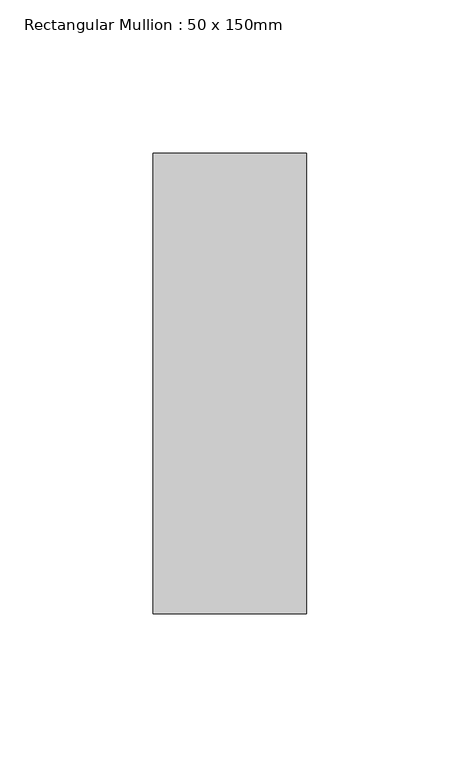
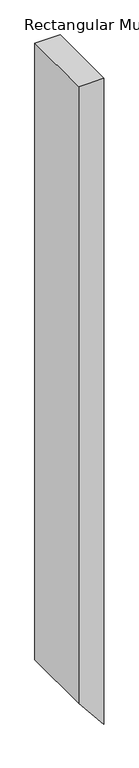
"""IFC4 building model written with IfcOpenShell, lengths in millimetres: member geometry, Rectangular Mullion : 50 x 150mm."""

from ifc_helpers import new_model, si_unit, frame, origin, place, context, project, spatial, polyline, outline, extrude, source, transform, mapped, element, save


def rectangular_mullion_50_x_150mm_67848945(model_context):
    return source(origin(), model_context, "Body", "SweptSolid", [
        extrude(outline(polyline([(0.0, 0.0), (0.0, -50.0), (-1291.4977718, -50.0), (-1353.3202354, 0.0), (0.0, 0.0)])), frame((0.0, -75.0, 0.0), z_axis=(0.0, 1.0, 0.0), x_axis=(0.0, 0.0, 1.0)), (0.0, 0.0, 1.0), 150.0),
    ])


if __name__ == "__main__":
    model = new_model("IFC4")
    model_context = context("Model", 3, world=origin())
    ifc_project = project(units=[si_unit("LENGTHUNIT", "METRE", prefix="MILLI")], contexts=[model_context])
    site = spatial("IfcSite", under=ifc_project)
    building = spatial("IfcBuilding", under=site)
    placement = place(None, origin())
    rectangular_mullion_50_x_150mm_shape = rectangular_mullion_50_x_150mm_67848945(model_context)
    element("IfcMember", 1, ObjectType="Rectangular Mullion : 50 x 150mm", at=placement, inside=building, context=model_context, shape_type="MappedRepresentation", body=[
        mapped(rectangular_mullion_50_x_150mm_shape, transform((0.0, 0.0, 0.0), x_axis=(1.0, 0.0, 0.0), y_axis=(0.0, 1.0, 0.0), z_axis=(0.0, 0.0, 1.0))),
    ])
    save(model, "model.ifc")
